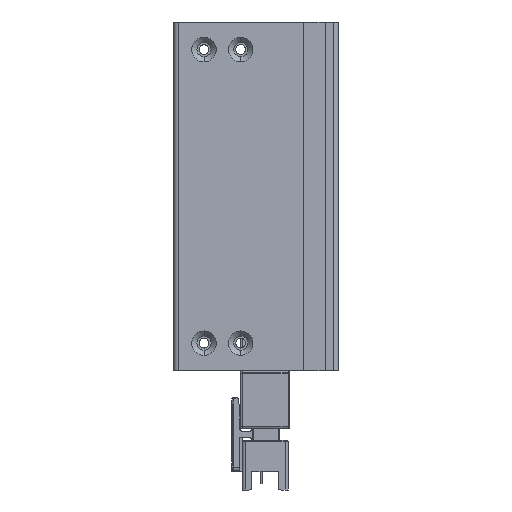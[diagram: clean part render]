
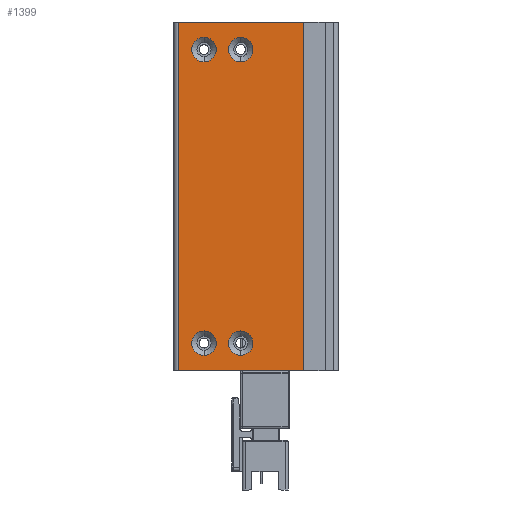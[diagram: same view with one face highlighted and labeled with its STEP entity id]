
A CAD part, left-side view. The second image highlights one B-rep face of the part: STEP entity #1399.
In plain terms, the highlighted planar face has unit normal (-1, 0, 0).
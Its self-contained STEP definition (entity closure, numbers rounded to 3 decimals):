
#72 = DIRECTION ( 'NONE',  ( 0., 0., 1. ) ) ;
#109 = DIRECTION ( 'NONE',  ( 0., 0., -1. ) ) ;
#128 = CARTESIAN_POINT ( 'NONE',  ( -19., -4.3, 28.5 ) ) ;
#182 = DIRECTION ( 'NONE',  ( 0., 0., 1. ) ) ;
#356 = DIRECTION ( 'NONE',  ( -1., 0., 0. ) ) ;
#376 = DIRECTION ( 'NONE',  ( 0., -1., 0. ) ) ;
#417 = CARTESIAN_POINT ( 'NONE',  ( -19., 6., 24. ) ) ;
#426 = CARTESIAN_POINT ( 'NONE',  ( -19., 16.2, 28.5 ) ) ;
#472 = CARTESIAN_POINT ( 'NONE',  ( -19., 6., 22. ) ) ;
#548 = DIRECTION ( 'NONE',  ( 0., 0., -1. ) ) ;
#787 = ORIENTED_EDGE ( 'NONE', *, *, #1877, .F. ) ;
#800 = VERTEX_POINT ( 'NONE', #6090 ) ;
#811 = CARTESIAN_POINT ( 'NONE',  ( -19., 12., -24. ) ) ;
#1066 = CARTESIAN_POINT ( 'NONE',  ( -19., 6., 24. ) ) ;
#1154 = ORIENTED_EDGE ( 'NONE', *, *, #6341, .F. ) ;
#1224 = CARTESIAN_POINT ( 'NONE',  ( -19., -4.3, -28.5 ) ) ;
#1301 = DIRECTION ( 'NONE',  ( 0., 0., 1. ) ) ;
#1399 = ADVANCED_FACE ( 'NONE', ( #3707, #9244, #11108, #5693, #11593 ), #5000, .F. ) ;
#1518 = DIRECTION ( 'NONE',  ( -1., 0., 0. ) ) ;
#1614 = VECTOR ( 'NONE', #109, 1000. ) ;
#1625 = CARTESIAN_POINT ( 'NONE',  ( -19., 16.2, 28.5 ) ) ;
#1745 = ORIENTED_EDGE ( 'NONE', *, *, #10041, .F. ) ;
#1873 = DIRECTION ( 'NONE',  ( 0., 0., 1. ) ) ;
#1877 = EDGE_CURVE ( 'NONE', #9826, #10731, #2583, .T. ) ;
#2072 = DIRECTION ( 'NONE',  ( 0., 0., 1. ) ) ;
#2252 = CARTESIAN_POINT ( 'NONE',  ( -19., 12., 22. ) ) ;
#2277 = CARTESIAN_POINT ( 'NONE',  ( -19., 16.2, -28.5 ) ) ;
#2322 = ORIENTED_EDGE ( 'NONE', *, *, #10885, .F. ) ;
#2420 = ORIENTED_EDGE ( 'NONE', *, *, #4752, .F. ) ;
#2583 = CIRCLE ( 'NONE', #10145, 2. ) ;
#2820 = VECTOR ( 'NONE', #548, 1000. ) ;
#2834 = VERTEX_POINT ( 'NONE', #4294 ) ;
#2896 = DIRECTION ( 'NONE',  ( 1., 0., 0. ) ) ;
#2911 = CARTESIAN_POINT ( 'NONE',  ( -19., 12., -24. ) ) ;
#3091 = EDGE_CURVE ( 'NONE', #11608, #6844, #3169, .T. ) ;
#3169 = LINE ( 'NONE', #7046, #1614 ) ;
#3436 = ORIENTED_EDGE ( 'NONE', *, *, #5125, .F. ) ;
#3502 = DIRECTION ( 'NONE',  ( 0., 0., 1. ) ) ;
#3635 = AXIS2_PLACEMENT_3D ( 'NONE', #811, #8764, #4813 ) ;
#3644 = CARTESIAN_POINT ( 'NONE',  ( -19., 16.2, 28.5 ) ) ;
#3707 = FACE_BOUND ( 'NONE', #8812, .T. ) ;
#4079 = VERTEX_POINT ( 'NONE', #472 ) ;
#4091 = CIRCLE ( 'NONE', #11483, 2. ) ;
#4103 = VERTEX_POINT ( 'NONE', #426 ) ;
#4140 = CARTESIAN_POINT ( 'NONE',  ( -19., 6., -24. ) ) ;
#4294 = CARTESIAN_POINT ( 'NONE',  ( -19., 6., 26. ) ) ;
#4447 = AXIS2_PLACEMENT_3D ( 'NONE', #4140, #356, #182 ) ;
#4752 = EDGE_CURVE ( 'NONE', #4103, #11608, #5484, .T. ) ;
#4802 = DIRECTION ( 'NONE',  ( -1., 0., 0. ) ) ;
#4813 = DIRECTION ( 'NONE',  ( 0., 0., 1. ) ) ;
#4852 = ORIENTED_EDGE ( 'NONE', *, *, #9934, .F. ) ;
#4866 = CARTESIAN_POINT ( 'NONE',  ( -19., 12., 24. ) ) ;
#5000 = PLANE ( 'NONE',  #7797 ) ;
#5125 = EDGE_CURVE ( 'NONE', #4079, #2834, #7785, .T. ) ;
#5219 = EDGE_LOOP ( 'NONE', ( #12672, #6028, #2420, #8391 ) ) ;
#5373 = AXIS2_PLACEMENT_3D ( 'NONE', #2911, #4802, #1873 ) ;
#5463 = LINE ( 'NONE', #3644, #2820 ) ;
#5484 = LINE ( 'NONE', #1625, #11840 ) ;
#5693 = FACE_BOUND ( 'NONE', #12864, .T. ) ;
#6028 = ORIENTED_EDGE ( 'NONE', *, *, #3091, .F. ) ;
#6090 = CARTESIAN_POINT ( 'NONE',  ( -19., 6., -26. ) ) ;
#6099 = ORIENTED_EDGE ( 'NONE', *, *, #8601, .F. ) ;
#6100 = DIRECTION ( 'NONE',  ( -1., 0., 0. ) ) ;
#6341 = EDGE_CURVE ( 'NONE', #12553, #800, #7456, .T. ) ;
#6457 = CIRCLE ( 'NONE', #7231, 2. ) ;
#6514 = DIRECTION ( 'NONE',  ( 0., -1., 0. ) ) ;
#6537 = ORIENTED_EDGE ( 'NONE', *, *, #11462, .F. ) ;
#6587 = CARTESIAN_POINT ( 'NONE',  ( -19., 6., -24. ) ) ;
#6683 = CIRCLE ( 'NONE', #3635, 2. ) ;
#6763 = VERTEX_POINT ( 'NONE', #10253 ) ;
#6844 = VERTEX_POINT ( 'NONE', #1224 ) ;
#7046 = CARTESIAN_POINT ( 'NONE',  ( -19., -4.3, 28.5 ) ) ;
#7075 = VERTEX_POINT ( 'NONE', #9206 ) ;
#7231 = AXIS2_PLACEMENT_3D ( 'NONE', #4866, #8851, #11765 ) ;
#7258 = CARTESIAN_POINT ( 'NONE',  ( -19., 16.2, -28.5 ) ) ;
#7456 = CIRCLE ( 'NONE', #4447, 2. ) ;
#7785 = CIRCLE ( 'NONE', #10567, 2. ) ;
#7791 = EDGE_LOOP ( 'NONE', ( #1154, #1745 ) ) ;
#7797 = AXIS2_PLACEMENT_3D ( 'NONE', #12897, #2896, #9797 ) ;
#8391 = ORIENTED_EDGE ( 'NONE', *, *, #10822, .T. ) ;
#8403 = AXIS2_PLACEMENT_3D ( 'NONE', #417, #9174, #1301 ) ;
#8601 = EDGE_CURVE ( 'NONE', #10731, #9826, #6457, .T. ) ;
#8764 = DIRECTION ( 'NONE',  ( -1., 0., 0. ) ) ;
#8812 = EDGE_LOOP ( 'NONE', ( #787, #6099 ) ) ;
#8851 = DIRECTION ( 'NONE',  ( -1., 0., 0. ) ) ;
#9174 = DIRECTION ( 'NONE',  ( -1., 0., 0. ) ) ;
#9206 = CARTESIAN_POINT ( 'NONE',  ( -19., 12., -22. ) ) ;
#9244 = FACE_BOUND ( 'NONE', #12786, .T. ) ;
#9490 = VECTOR ( 'NONE', #376, 1000. ) ;
#9797 = DIRECTION ( 'NONE',  ( 0., 0., -1. ) ) ;
#9826 = VERTEX_POINT ( 'NONE', #12324 ) ;
#9934 = EDGE_CURVE ( 'NONE', #2834, #4079, #12315, .T. ) ;
#10041 = EDGE_CURVE ( 'NONE', #800, #12553, #4091, .T. ) ;
#10145 = AXIS2_PLACEMENT_3D ( 'NONE', #10938, #10977, #72 ) ;
#10253 = CARTESIAN_POINT ( 'NONE',  ( -19., 12., -26. ) ) ;
#10567 = AXIS2_PLACEMENT_3D ( 'NONE', #1066, #6100, #2072 ) ;
#10721 = LINE ( 'NONE', #7258, #9490 ) ;
#10731 = VERTEX_POINT ( 'NONE', #2252 ) ;
#10769 = EDGE_CURVE ( 'NONE', #12890, #6844, #10721, .T. ) ;
#10822 = EDGE_CURVE ( 'NONE', #4103, #12890, #5463, .T. ) ;
#10885 = EDGE_CURVE ( 'NONE', #7075, #6763, #6683, .T. ) ;
#10938 = CARTESIAN_POINT ( 'NONE',  ( -19., 12., 24. ) ) ;
#10977 = DIRECTION ( 'NONE',  ( -1., 0., 0. ) ) ;
#11108 = FACE_BOUND ( 'NONE', #7791, .T. ) ;
#11462 = EDGE_CURVE ( 'NONE', #6763, #7075, #12591, .T. ) ;
#11483 = AXIS2_PLACEMENT_3D ( 'NONE', #6587, #1518, #3502 ) ;
#11593 = FACE_OUTER_BOUND ( 'NONE', #5219, .T. ) ;
#11608 = VERTEX_POINT ( 'NONE', #128 ) ;
#11765 = DIRECTION ( 'NONE',  ( 0., 0., 1. ) ) ;
#11840 = VECTOR ( 'NONE', #6514, 1000. ) ;
#12315 = CIRCLE ( 'NONE', #8403, 2. ) ;
#12324 = CARTESIAN_POINT ( 'NONE',  ( -19., 12., 26. ) ) ;
#12553 = VERTEX_POINT ( 'NONE', #12661 ) ;
#12591 = CIRCLE ( 'NONE', #5373, 2. ) ;
#12661 = CARTESIAN_POINT ( 'NONE',  ( -19., 6., -22. ) ) ;
#12672 = ORIENTED_EDGE ( 'NONE', *, *, #10769, .T. ) ;
#12786 = EDGE_LOOP ( 'NONE', ( #4852, #3436 ) ) ;
#12864 = EDGE_LOOP ( 'NONE', ( #2322, #6537 ) ) ;
#12890 = VERTEX_POINT ( 'NONE', #2277 ) ;
#12897 = CARTESIAN_POINT ( 'NONE',  ( -19., 16.2, 28.5 ) ) ;
